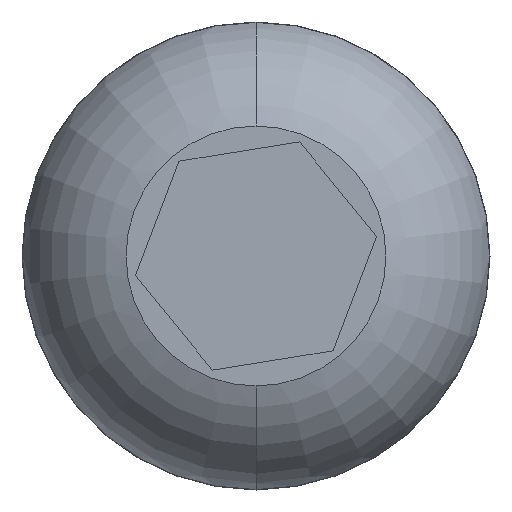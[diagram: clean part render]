
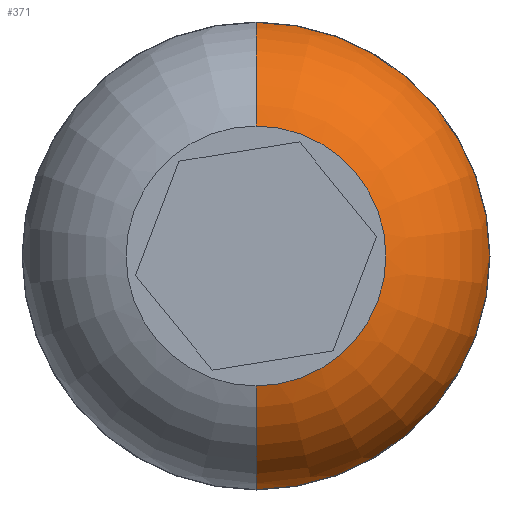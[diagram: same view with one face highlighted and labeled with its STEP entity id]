
A CAD part, front view. The second image highlights one B-rep face of the part: STEP entity #371.
In plain terms, the highlighted toroidal (fillet/blend) face has major radius 1.875 mm and minor radius 3.125 mm.
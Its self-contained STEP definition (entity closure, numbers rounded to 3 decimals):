
#110 = CARTESIAN_POINT ( 'NONE',  ( 0., -0.595, 0. ) ) ;
#155 = ORIENTED_EDGE ( 'NONE', *, *, #4435, .F. ) ;
#223 = CIRCLE ( 'NONE', #5936, 2.75 ) ;
#232 = DIRECTION ( 'NONE',  ( 0., 0., 1. ) ) ;
#371 = ADVANCED_FACE ( 'NONE', ( #903 ), #4618, .T. ) ;
#446 = DIRECTION ( 'NONE',  ( 0., 0., -1. ) ) ;
#544 = DIRECTION ( 'NONE',  ( 0., 0., -1. ) ) ;
#903 = FACE_OUTER_BOUND ( 'NONE', #4911, .T. ) ;
#905 = EDGE_CURVE ( 'NONE', #6235, #1435, #3421, .T. ) ;
#937 = DIRECTION ( 'NONE',  ( -1., 0., 0. ) ) ;
#1149 = DIRECTION ( 'NONE',  ( 0., -1., 0. ) ) ;
#1240 = DIRECTION ( 'NONE',  ( 0., -1., 0. ) ) ;
#1395 = AXIS2_PLACEMENT_3D ( 'NONE', #6307, #5612, #4908 ) ;
#1435 = VERTEX_POINT ( 'NONE', #3625 ) ;
#1639 = CARTESIAN_POINT ( 'NONE',  ( 0., 0., -1.875 ) ) ;
#1850 = CARTESIAN_POINT ( 'NONE',  ( 0., 0., 0. ) ) ;
#2549 = CIRCLE ( 'NONE', #5915, 3.125 ) ;
#3359 = CARTESIAN_POINT ( 'NONE',  ( 0., -3., 2.75 ) ) ;
#3414 = AXIS2_PLACEMENT_3D ( 'NONE', #1850, #1149, #446 ) ;
#3421 = CIRCLE ( 'NONE', #6777, 4.943 ) ;
#3487 = EDGE_CURVE ( 'NONE', #6235, #5737, #2549, .T. ) ;
#3625 = CARTESIAN_POINT ( 'NONE',  ( 0., -0.595, 4.943 ) ) ;
#4007 = ORIENTED_EDGE ( 'NONE', *, *, #5088, .T. ) ;
#4266 = CIRCLE ( 'NONE', #1395, 3.125 ) ;
#4435 = EDGE_CURVE ( 'NONE', #5737, #6850, #223, .T. ) ;
#4472 = ORIENTED_EDGE ( 'NONE', *, *, #3487, .F. ) ;
#4618 = TOROIDAL_SURFACE ( 'NONE', #3414, 1.875, 3.125 ) ;
#4783 = CARTESIAN_POINT ( 'NONE',  ( 0., -3., 0. ) ) ;
#4908 = DIRECTION ( 'NONE',  ( 0., 0., -1. ) ) ;
#4911 = EDGE_LOOP ( 'NONE', ( #5171, #4007, #155, #4472 ) ) ;
#5088 = EDGE_CURVE ( 'NONE', #1435, #6850, #4266, .T. ) ;
#5171 = ORIENTED_EDGE ( 'NONE', *, *, #905, .T. ) ;
#5582 = DIRECTION ( 'NONE',  ( 0., 0., 1. ) ) ;
#5612 = DIRECTION ( 'NONE',  ( 1., 0., 0. ) ) ;
#5641 = CARTESIAN_POINT ( 'NONE',  ( 0., -0.595, -4.943 ) ) ;
#5737 = VERTEX_POINT ( 'NONE', #6538 ) ;
#5915 = AXIS2_PLACEMENT_3D ( 'NONE', #1639, #937, #232 ) ;
#5936 = AXIS2_PLACEMENT_3D ( 'NONE', #4783, #1240, #544 ) ;
#6235 = VERTEX_POINT ( 'NONE', #5641 ) ;
#6277 = DIRECTION ( 'NONE',  ( 0., -1., 0. ) ) ;
#6307 = CARTESIAN_POINT ( 'NONE',  ( 0., 0., 1.875 ) ) ;
#6538 = CARTESIAN_POINT ( 'NONE',  ( 0., -3., -2.75 ) ) ;
#6777 = AXIS2_PLACEMENT_3D ( 'NONE', #110, #6277, #5582 ) ;
#6850 = VERTEX_POINT ( 'NONE', #3359 ) ;
